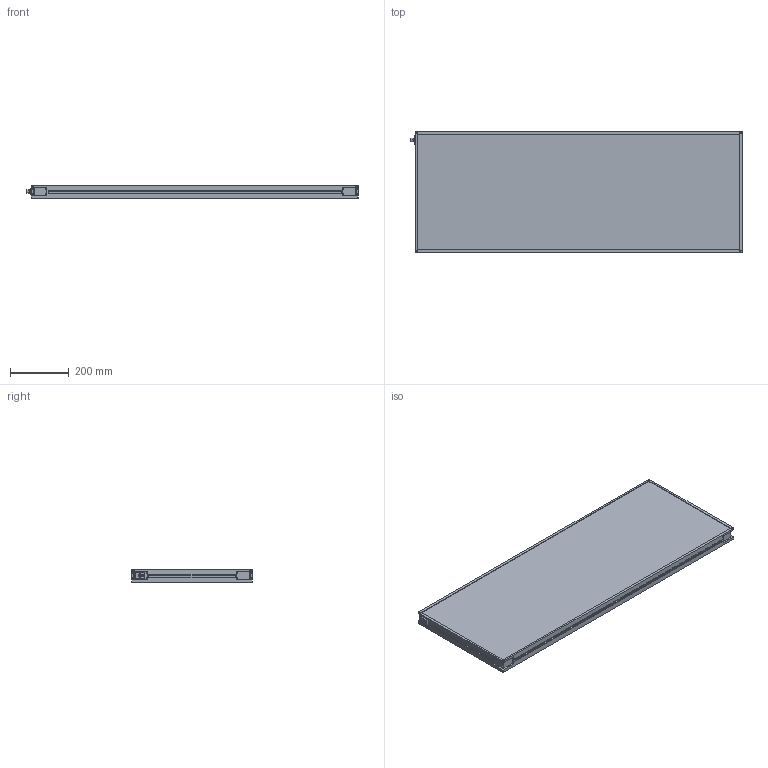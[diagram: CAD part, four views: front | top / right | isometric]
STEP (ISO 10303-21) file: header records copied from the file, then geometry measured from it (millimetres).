
FILE_DESCRIPTION (( 'STEP AP214' ), '1' );
FILE_NAME ('MBACK-xxxx-xxx-M1_CLIENT400x1100.STEP', '2022-03-31T16:04:41', ( '' ), ( '' ), 'SwSTEP 2.0', 'SolidWorks 2020', '' );
FILE_SCHEMA (( 'AUTOMOTIVE_DESIGN' ));
Length unit declared in the file: millimetre
Products named in the file (1): MBACK-xxxx-xxx-M1_CLIENT400x1100
Bounding box: 1125.9 x 408 x 45.5 mm (x, y, z)
Volume: 18787031.8 mm3; surface area: 1105405.7 mm2
Topology: 1 solids, 1 shells, 442 faces, 1144 edges, 760 vertices
Faces by surface type: plane 249, cylinder 105, bspline 80, cone 8
Entity records: 17236 total; most frequent: CARTESIAN_POINT 6699, ORIENTED_EDGE 2288, DIRECTION 1936, EDGE_CURVE 1144, VERTEX_POINT 760, VECTOR 758, LINE 758, AXIS2_PLACEMENT_3D 589
